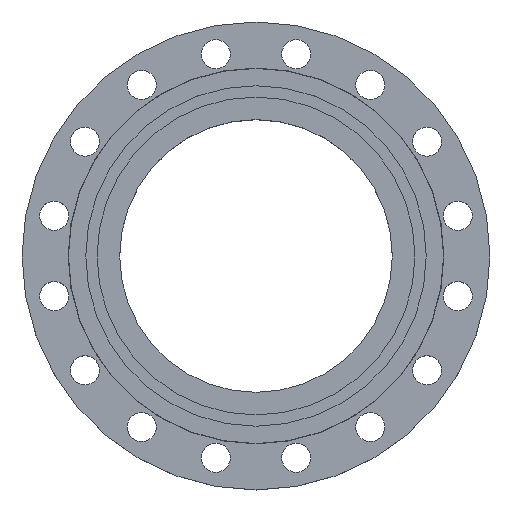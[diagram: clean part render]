
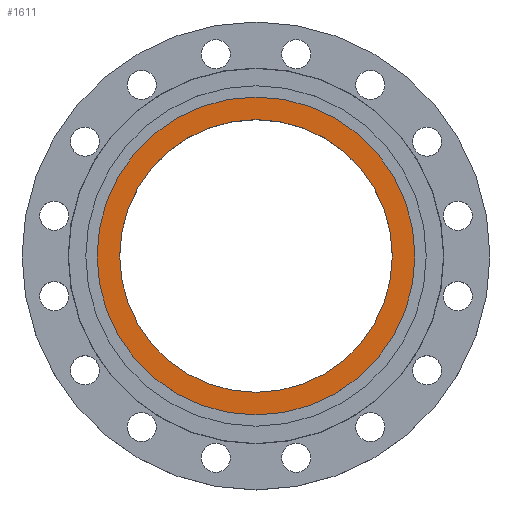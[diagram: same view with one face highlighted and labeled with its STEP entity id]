
A CAD part, top view. The second image highlights one B-rep face of the part: STEP entity #1611.
In plain terms, the highlighted planar face has unit normal (0, 0, 1).
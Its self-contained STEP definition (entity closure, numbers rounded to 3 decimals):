
#106 = AXIS2_PLACEMENT_3D ( 'NONE', #1153, #365, #364 ) ;
#187 = EDGE_CURVE ( 'NONE', #1412, #1349, #346, .T. ) ;
#271 = AXIS2_PLACEMENT_3D ( 'NONE', #829, #828, #826 ) ;
#294 = DIRECTION ( 'NONE',  ( 1., 0., 0. ) ) ;
#295 = DIRECTION ( 'NONE',  ( 0., 0., 1. ) ) ;
#296 = CARTESIAN_POINT ( 'NONE',  ( 0., 0., 0. ) ) ;
#299 = PLANE ( 'NONE',  #387 ) ;
#301 = FACE_OUTER_BOUND ( 'NONE', #1454, .T. ) ;
#302 = FACE_BOUND ( 'NONE', #1458, .T. ) ;
#346 = CIRCLE ( 'NONE', #352, 197. ) ;
#352 = AXIS2_PLACEMENT_3D ( 'NONE', #1207, #1206, #1204 ) ;
#364 = DIRECTION ( 'NONE',  ( -1., 0., 0. ) ) ;
#365 = DIRECTION ( 'NONE',  ( 0., 0., -1. ) ) ;
#376 = CIRCLE ( 'NONE', #271, 169. ) ;
#387 = AXIS2_PLACEMENT_3D ( 'NONE', #296, #295, #294 ) ;
#422 = CARTESIAN_POINT ( 'NONE',  ( 197., 0., 0. ) ) ;
#459 = CARTESIAN_POINT ( 'NONE',  ( 169., 0., 0. ) ) ;
#462 = CARTESIAN_POINT ( 'NONE',  ( -169., 0., 0. ) ) ;
#500 = CARTESIAN_POINT ( 'NONE',  ( -197., 0., 0. ) ) ;
#561 = DIRECTION ( 'NONE',  ( -1., 0., 0. ) ) ;
#563 = DIRECTION ( 'NONE',  ( 0., 0., -1. ) ) ;
#564 = CARTESIAN_POINT ( 'NONE',  ( 0., 0., 0. ) ) ;
#680 = EDGE_CURVE ( 'NONE', #1370, #1375, #376, .T. ) ;
#826 = DIRECTION ( 'NONE',  ( -1., 0., 0. ) ) ;
#828 = DIRECTION ( 'NONE',  ( 0., 0., -1. ) ) ;
#829 = CARTESIAN_POINT ( 'NONE',  ( 0., 0., 0. ) ) ;
#1153 = CARTESIAN_POINT ( 'NONE',  ( 0., 0., 0. ) ) ;
#1204 = DIRECTION ( 'NONE',  ( -1., 0., 0. ) ) ;
#1206 = DIRECTION ( 'NONE',  ( 0., 0., -1. ) ) ;
#1207 = CARTESIAN_POINT ( 'NONE',  ( 0., 0., 0. ) ) ;
#1301 = EDGE_CURVE ( 'NONE', #1375, #1370, #1676, .T. ) ;
#1349 = VERTEX_POINT ( 'NONE', #500 ) ;
#1370 = VERTEX_POINT ( 'NONE', #462 ) ;
#1375 = VERTEX_POINT ( 'NONE', #459 ) ;
#1412 = VERTEX_POINT ( 'NONE', #422 ) ;
#1454 = EDGE_LOOP ( 'NONE', ( #1701, #1703 ) ) ;
#1458 = EDGE_LOOP ( 'NONE', ( #1699, #1700 ) ) ;
#1489 = CIRCLE ( 'NONE', #106, 197. ) ;
#1575 = EDGE_CURVE ( 'NONE', #1349, #1412, #1489, .T. ) ;
#1611 = ADVANCED_FACE ( 'NONE', ( #302, #301 ), #299, .T. ) ;
#1676 = CIRCLE ( 'NONE', #1682, 169. ) ;
#1682 = AXIS2_PLACEMENT_3D ( 'NONE', #564, #563, #561 ) ;
#1699 = ORIENTED_EDGE ( 'NONE', *, *, #680, .T. ) ;
#1700 = ORIENTED_EDGE ( 'NONE', *, *, #1301, .T. ) ;
#1701 = ORIENTED_EDGE ( 'NONE', *, *, #1575, .F. ) ;
#1703 = ORIENTED_EDGE ( 'NONE', *, *, #187, .F. ) ;
